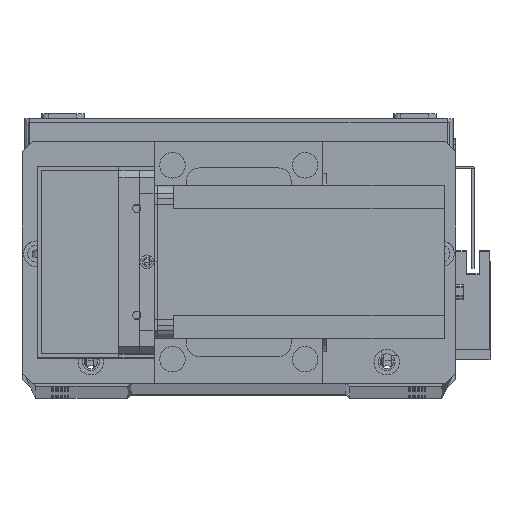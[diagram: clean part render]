
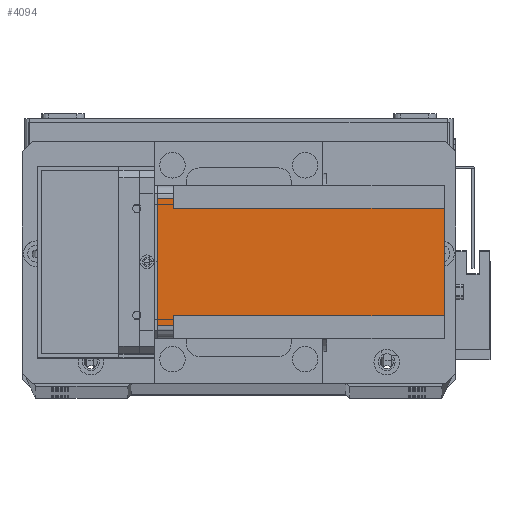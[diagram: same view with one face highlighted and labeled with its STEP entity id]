
A CAD part, top view. The second image highlights one B-rep face of the part: STEP entity #4094.
In plain terms, the highlighted planar face has unit normal (0, 0, 1) as drawn and (-1, 0, 0) by its records, which use the part's own axes.
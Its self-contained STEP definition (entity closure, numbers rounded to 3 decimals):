
#63 = LINE ( 'NONE', #29253, #7076 ) ;
#1374 = PLANE ( 'NONE',  #28492 ) ;
#1537 = DIRECTION ( 'NONE',  ( 0., 0., -1. ) ) ;
#1963 = VERTEX_POINT ( 'NONE', #6148 ) ;
#4094 = ADVANCED_FACE ( 'NONE', ( #30661 ), #1374, .T. ) ;
#4745 = CARTESIAN_POINT ( 'NONE',  ( 0., 5., -112.5 ) ) ;
#5032 = CARTESIAN_POINT ( 'NONE',  ( 0., 51., -112.5 ) ) ;
#5294 = LINE ( 'NONE', #22546, #10627 ) ;
#5983 = CARTESIAN_POINT ( 'NONE',  ( 0., 5., 0. ) ) ;
#6148 = CARTESIAN_POINT ( 'NONE',  ( 0., 51., -6.5 ) ) ;
#6500 = LINE ( 'NONE', #10905, #18027 ) ;
#6693 = DIRECTION ( 'NONE',  ( 0., -1., 0. ) ) ;
#6705 = CARTESIAN_POINT ( 'NONE',  ( 0., 9., -112.5 ) ) ;
#7076 = VECTOR ( 'NONE', #8292, 1000. ) ;
#7193 = VERTEX_POINT ( 'NONE', #25892 ) ;
#7699 = EDGE_CURVE ( 'NONE', #30665, #25881, #5294, .T. ) ;
#8292 = DIRECTION ( 'NONE',  ( 0., -1., 0. ) ) ;
#8463 = CARTESIAN_POINT ( 'NONE',  ( 0., 55., -6.5 ) ) ;
#10096 = EDGE_CURVE ( 'NONE', #30665, #30694, #19783, .T. ) ;
#10627 = VECTOR ( 'NONE', #33201, 1000. ) ;
#10905 = CARTESIAN_POINT ( 'NONE',  ( 0., 55., -112.5 ) ) ;
#11030 = DIRECTION ( 'NONE',  ( 0., 0., -1. ) ) ;
#11285 = ORIENTED_EDGE ( 'NONE', *, *, #13691, .F. ) ;
#12098 = VECTOR ( 'NONE', #28159, 1000. ) ;
#12262 = VECTOR ( 'NONE', #1537, 1000. ) ;
#12488 = VERTEX_POINT ( 'NONE', #8463 ) ;
#12782 = DIRECTION ( 'NONE',  ( 0., 0., 1. ) ) ;
#13125 = ORIENTED_EDGE ( 'NONE', *, *, #19613, .T. ) ;
#13691 = EDGE_CURVE ( 'NONE', #7193, #30694, #19129, .T. ) ;
#14177 = ORIENTED_EDGE ( 'NONE', *, *, #22722, .F. ) ;
#15954 = CARTESIAN_POINT ( 'NONE',  ( 0., 9., -6.5 ) ) ;
#16325 = EDGE_LOOP ( 'NONE', ( #27694, #32593, #11285, #13125, #14177, #21691, #26638, #20889 ) ) ;
#17821 = VERTEX_POINT ( 'NONE', #6705 ) ;
#18027 = VECTOR ( 'NONE', #11030, 1000. ) ;
#18422 = DIRECTION ( 'NONE',  ( 0., 1., 0. ) ) ;
#18999 = CARTESIAN_POINT ( 'NONE',  ( 0., 5., -6.5 ) ) ;
#19129 = LINE ( 'NONE', #33319, #12098 ) ;
#19613 = EDGE_CURVE ( 'NONE', #7193, #12488, #6500, .T. ) ;
#19664 = LINE ( 'NONE', #23574, #27533 ) ;
#19783 = LINE ( 'NONE', #4745, #20592 ) ;
#19821 = CARTESIAN_POINT ( 'NONE',  ( 0., 0., -112.5 ) ) ;
#20592 = VECTOR ( 'NONE', #23221, 1000. ) ;
#20610 = CARTESIAN_POINT ( 'NONE',  ( 0., 51., -112.5 ) ) ;
#20889 = ORIENTED_EDGE ( 'NONE', *, *, #31574, .F. ) ;
#21691 = ORIENTED_EDGE ( 'NONE', *, *, #30409, .F. ) ;
#22526 = DIRECTION ( 'NONE',  ( -1., 0., 0. ) ) ;
#22546 = CARTESIAN_POINT ( 'NONE',  ( 0., 0., -6.5 ) ) ;
#22722 = EDGE_CURVE ( 'NONE', #1963, #12488, #19664, .T. ) ;
#23221 = DIRECTION ( 'NONE',  ( 0., 0., 1. ) ) ;
#23574 = CARTESIAN_POINT ( 'NONE',  ( 0., 60., -6.5 ) ) ;
#24362 = VECTOR ( 'NONE', #12782, 1000. ) ;
#25804 = VERTEX_POINT ( 'NONE', #5032 ) ;
#25881 = VERTEX_POINT ( 'NONE', #15954 ) ;
#25892 = CARTESIAN_POINT ( 'NONE',  ( 0., 55., 0. ) ) ;
#26638 = ORIENTED_EDGE ( 'NONE', *, *, #29051, .T. ) ;
#27533 = VECTOR ( 'NONE', #18422, 1000. ) ;
#27694 = ORIENTED_EDGE ( 'NONE', *, *, #7699, .F. ) ;
#27845 = CARTESIAN_POINT ( 'NONE',  ( 0., 9., -112.5 ) ) ;
#28159 = DIRECTION ( 'NONE',  ( 0., -1., 0. ) ) ;
#28492 = AXIS2_PLACEMENT_3D ( 'NONE', #19821, #22526, #6693 ) ;
#29051 = EDGE_CURVE ( 'NONE', #25804, #17821, #63, .T. ) ;
#29253 = CARTESIAN_POINT ( 'NONE',  ( 0., 0., -112.5 ) ) ;
#30409 = EDGE_CURVE ( 'NONE', #25804, #1963, #31294, .T. ) ;
#30661 = FACE_OUTER_BOUND ( 'NONE', #16325, .T. ) ;
#30665 = VERTEX_POINT ( 'NONE', #18999 ) ;
#30694 = VERTEX_POINT ( 'NONE', #5983 ) ;
#31294 = LINE ( 'NONE', #20610, #24362 ) ;
#31574 = EDGE_CURVE ( 'NONE', #25881, #17821, #33291, .T. ) ;
#32593 = ORIENTED_EDGE ( 'NONE', *, *, #10096, .T. ) ;
#33201 = DIRECTION ( 'NONE',  ( 0., 1., 0. ) ) ;
#33291 = LINE ( 'NONE', #27845, #12262 ) ;
#33319 = CARTESIAN_POINT ( 'NONE',  ( 0., 0., 0. ) ) ;
